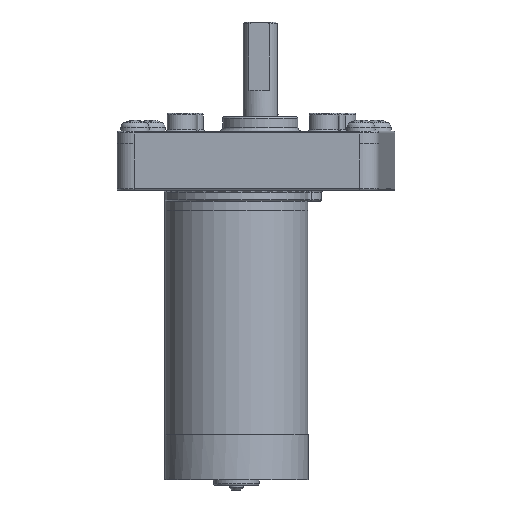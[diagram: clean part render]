
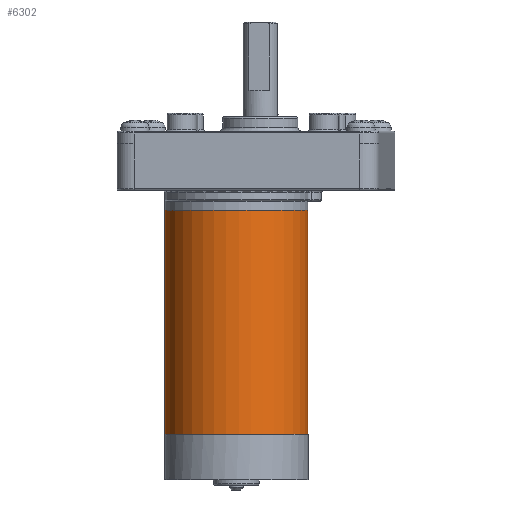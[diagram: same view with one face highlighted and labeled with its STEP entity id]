
A CAD part, front view. The second image highlights one B-rep face of the part: STEP entity #6302.
In plain terms, the highlighted cylindrical face has radius 20 mm (diameter 40 mm), a full revolution.
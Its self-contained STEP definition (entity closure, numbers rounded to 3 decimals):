
#1220=FACE_BOUND('',#2252,.T.);
#1615=FACE_OUTER_BOUND('',#2251,.T.);
#2251=EDGE_LOOP('',(#5601));
#2252=EDGE_LOOP('',(#5602));
#2725=CIRCLE('',#7158,20.);
#2726=CIRCLE('',#7159,20.);
#3279=VERTEX_POINT('',#11689);
#3280=VERTEX_POINT('',#11691);
#4068=EDGE_CURVE('',#3279,#3279,#2725,.T.);
#4069=EDGE_CURVE('',#3280,#3280,#2726,.T.);
#5601=ORIENTED_EDGE('',*,*,#4068,.T.);
#5602=ORIENTED_EDGE('',*,*,#4069,.F.);
#5916=CYLINDRICAL_SURFACE('',#7157,20.);
#6302=ADVANCED_FACE('',(#1615,#1220),#5916,.T.);
#7157=AXIS2_PLACEMENT_3D('',#11688,#9025,#9026);
#7158=AXIS2_PLACEMENT_3D('',#11690,#9027,#9028);
#7159=AXIS2_PLACEMENT_3D('',#11692,#9029,#9030);
#9025=DIRECTION('center_axis',(0.,0.,1.));
#9026=DIRECTION('ref_axis',(-1.,0.,0.));
#9027=DIRECTION('center_axis',(0.,0.,-1.));
#9028=DIRECTION('ref_axis',(-1.,0.,0.));
#9029=DIRECTION('center_axis',(0.,0.,-1.));
#9030=DIRECTION('ref_axis',(-1.,0.,0.));
#11688=CARTESIAN_POINT('Origin',(0.,0.,0.));
#11689=CARTESIAN_POINT('',(20.,0.,62.4));
#11690=CARTESIAN_POINT('Origin',(0.,0.,62.4));
#11691=CARTESIAN_POINT('',(20.,0.,0.));
#11692=CARTESIAN_POINT('Origin',(0.,0.,0.));
